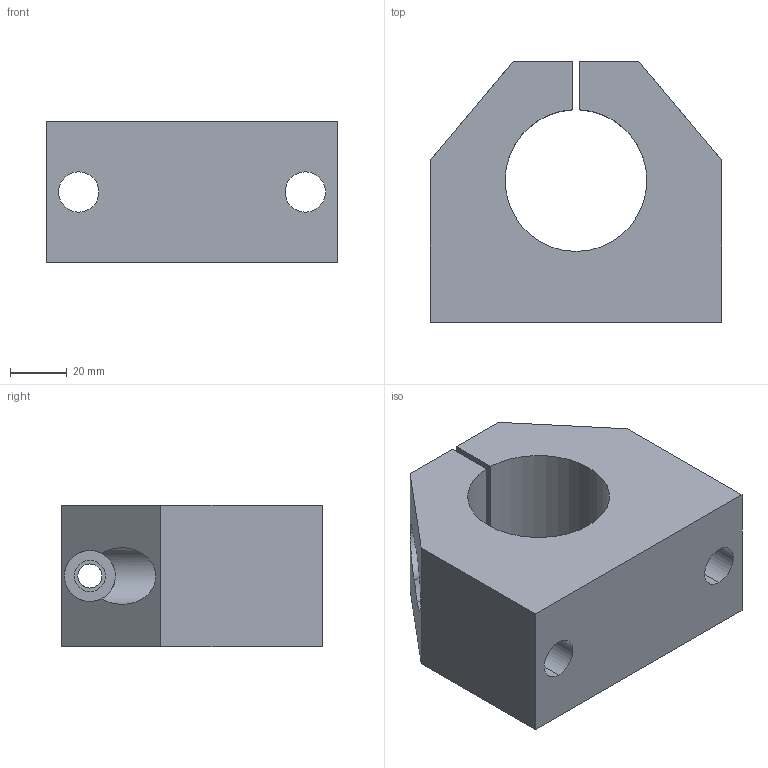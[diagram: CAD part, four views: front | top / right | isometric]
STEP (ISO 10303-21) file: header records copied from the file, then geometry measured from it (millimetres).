
FILE_DESCRIPTION (( 'STEP AP214' ), '1' );
FILE_NAME ('KWBC58-50.step', '2020-03-04T13:12:16', ( '' ), ( '' ), 'SwSTEP 2.0', 'SolidWorks 2019', '' );
FILE_SCHEMA (( 'AUTOMOTIVE_DESIGN' ));
Length unit declared in the file: millimetre
Products named in the file (1): KWBC58-50
Bounding box: 103 x 92 x 50 mm (x, y, z)
Volume: 284826.4 mm3; surface area: 47854 mm2
Topology: 1 solids, 1 shells, 31 faces, 84 edges, 56 vertices
Faces by surface type: cylinder 17, plane 14
Entity records: 1157 total; most frequent: CARTESIAN_POINT 268, ORIENTED_EDGE 168, DIRECTION 160, EDGE_CURVE 84, AXIS2_PLACEMENT_3D 58, VERTEX_POINT 56, VECTOR 44, LINE 44
